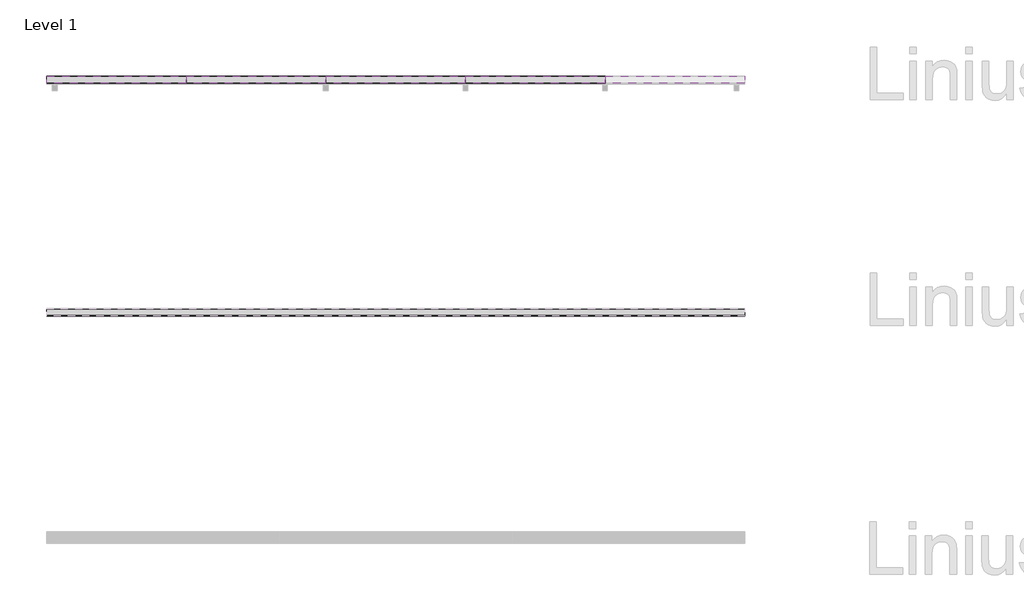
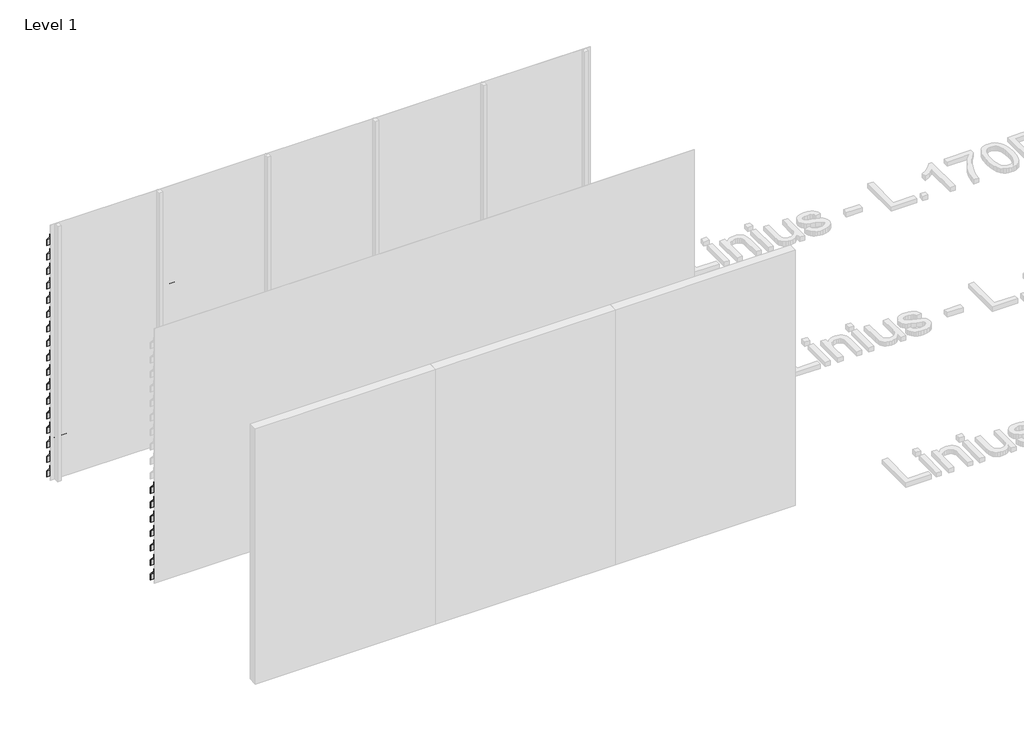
# One storey, part 83 of 121: 84 proxies.
"""IFC4 building model written with IfcOpenShell, lengths in millimetres."""

from ifc_helpers import new_model, si_unit, frame, origin, place, context, project, spatial, polyline, outline, extrude, element, save

model = new_model("IFC4")

# Units and contexts
model_context = context("Model", 3, world=origin())
ifc_project = project(units=[si_unit("LENGTHUNIT", "METRE", prefix="MILLI")], contexts=[model_context])

# Site, building, storey
site = spatial("IfcSite", under=ifc_project)
building = spatial("IfcBuilding", under=site)
storey = spatial("IfcBuildingStorey", under=building, Name="Level 1", Elevation=0.0)

# Proxies
placement = place(None, origin())
element("IfcBuildingElementProxy", 1, Name="Wall Sweeps", at=placement, inside=storey, context=model_context, shape_type="SweptSolid", body=[
    extrude(outline(polyline([(36552.5540136, 2789.0), (36552.5540136, 2720.0), (36550.5540136, 2720.9326153), (36550.5540136, 2788.2698755), (36490.0540136, 2860.0893276), (36490.0540136, 2890.0), (36492.0540136, 2890.0), (36492.0540136, 2860.8194521), (36552.5540136, 2789.0)])), frame((89466.6208097, 0.0, 0.0), z_axis=(1.0, 0.0, 0.0), x_axis=(0.0, 1.0, 0.0)), (0.0, 0.0, 1.0), 1200.0000002),
])
element("IfcBuildingElementProxy", 2, Name="Wall Sweeps", at=placement, inside=storey, context=model_context, shape_type="SweptSolid", body=[
    extrude(outline(polyline([(36552.5540136, 2619.0), (36552.5540136, 2550.0), (36550.5540136, 2550.9326153), (36550.5540136, 2618.2698755), (36490.0540136, 2690.0893276), (36490.0540136, 2720.0), (36492.0540136, 2720.0), (36492.0540136, 2690.8194521), (36552.5540136, 2619.0)])), frame((89466.6208097, 0.0, 0.0), z_axis=(1.0, 0.0, 0.0), x_axis=(0.0, 1.0, 0.0)), (0.0, 0.0, 1.0), 1200.0000002),
])
element("IfcBuildingElementProxy", 3, Name="Wall Sweeps", at=placement, inside=storey, context=model_context, shape_type="SweptSolid", body=[
    extrude(outline(polyline([(36552.5540136, 2449.0), (36552.5540136, 2380.0), (36550.5540136, 2380.9326153), (36550.5540136, 2448.2698755), (36490.0540136, 2520.0893276), (36490.0540136, 2550.0), (36492.0540136, 2550.0), (36492.0540136, 2520.8194521), (36552.5540136, 2449.0)])), frame((89466.6208097, 0.0, 0.0), z_axis=(1.0, 0.0, 0.0), x_axis=(0.0, 1.0, 0.0)), (0.0, 0.0, 1.0), 1200.0000002),
])
element("IfcBuildingElementProxy", 4, Name="Wall Sweeps", at=placement, inside=storey, context=model_context, shape_type="SweptSolid", body=[
    extrude(outline(polyline([(36552.5540136, 2279.0), (36552.5540136, 2210.0), (36550.5540136, 2210.9326153), (36550.5540136, 2278.2698755), (36490.0540136, 2350.0893276), (36490.0540136, 2380.0), (36492.0540136, 2380.0), (36492.0540136, 2350.8194521), (36552.5540136, 2279.0)])), frame((89466.6208097, 0.0, 0.0), z_axis=(1.0, 0.0, 0.0), x_axis=(0.0, 1.0, 0.0)), (0.0, 0.0, 1.0), 1200.0000002),
])
element("IfcBuildingElementProxy", 5, Name="Wall Sweeps", at=placement, inside=storey, context=model_context, shape_type="SweptSolid", body=[
    extrude(outline(polyline([(36552.5540136, 2109.0), (36552.5540136, 2040.0), (36550.5540136, 2040.9326153), (36550.5540136, 2108.2698755), (36490.0540136, 2180.0893276), (36490.0540136, 2210.0), (36492.0540136, 2210.0), (36492.0540136, 2180.8194521), (36552.5540136, 2109.0)])), frame((89466.6208097, 0.0, 0.0), z_axis=(1.0, 0.0, 0.0), x_axis=(0.0, 1.0, 0.0)), (0.0, 0.0, 1.0), 1200.0000002),
])
element("IfcBuildingElementProxy", 6, Name="Wall Sweeps", at=placement, inside=storey, context=model_context, shape_type="SweptSolid", body=[
    extrude(outline(polyline([(36552.5540136, 1939.0), (36552.5540136, 1870.0), (36550.5540136, 1870.9326153), (36550.5540136, 1938.2698755), (36490.0540136, 2010.0893276), (36490.0540136, 2040.0), (36492.0540136, 2040.0), (36492.0540136, 2010.8194521), (36552.5540136, 1939.0)])), frame((89466.6208097, 0.0, 0.0), z_axis=(1.0, 0.0, 0.0), x_axis=(0.0, 1.0, 0.0)), (0.0, 0.0, 1.0), 1200.0000002),
])
element("IfcBuildingElementProxy", 7, Name="Wall Sweeps", at=placement, inside=storey, context=model_context, shape_type="SweptSolid", body=[
    extrude(outline(polyline([(36552.5540136, 1769.0), (36552.5540136, 1700.0), (36550.5540136, 1700.9326153), (36550.5540136, 1768.2698755), (36490.0540136, 1840.0893276), (36490.0540136, 1870.0), (36492.0540136, 1870.0), (36492.0540136, 1840.8194521), (36552.5540136, 1769.0)])), frame((89466.6208097, 0.0, 0.0), z_axis=(1.0, 0.0, 0.0), x_axis=(0.0, 1.0, 0.0)), (0.0, 0.0, 1.0), 1200.0000002),
])
element("IfcBuildingElementProxy", 8, Name="Wall Sweeps", at=placement, inside=storey, context=model_context, shape_type="SweptSolid", body=[
    extrude(outline(polyline([(36552.5540136, 1599.0), (36552.5540136, 1530.0), (36550.5540136, 1530.9326153), (36550.5540136, 1598.2698755), (36490.0540136, 1670.0893276), (36490.0540136, 1700.0), (36492.0540136, 1700.0), (36492.0540136, 1670.8194521), (36552.5540136, 1599.0)])), frame((89466.6208097, 0.0, 0.0), z_axis=(1.0, 0.0, 0.0), x_axis=(0.0, 1.0, 0.0)), (0.0, 0.0, 1.0), 1200.0000002),
])
element("IfcBuildingElementProxy", 9, Name="Wall Sweeps", at=placement, inside=storey, context=model_context, shape_type="SweptSolid", body=[
    extrude(outline(polyline([(36552.5540136, 1429.0), (36552.5540136, 1360.0), (36550.5540136, 1360.9326153), (36550.5540136, 1428.2698755), (36490.0540136, 1500.0893276), (36490.0540136, 1530.0), (36492.0540136, 1530.0), (36492.0540136, 1500.8194521), (36552.5540136, 1429.0)])), frame((89466.6208097, 0.0, 0.0), z_axis=(1.0, 0.0, 0.0), x_axis=(0.0, 1.0, 0.0)), (0.0, 0.0, 1.0), 1200.0000002),
])
element("IfcBuildingElementProxy", 10, Name="Wall Sweeps", at=placement, inside=storey, context=model_context, shape_type="SweptSolid", body=[
    extrude(outline(polyline([(36552.5540136, 1259.0), (36552.5540136, 1190.0), (36550.5540136, 1190.9326153), (36550.5540136, 1258.2698755), (36490.0540136, 1330.0893276), (36490.0540136, 1360.0), (36492.0540136, 1360.0), (36492.0540136, 1330.8194521), (36552.5540136, 1259.0)])), frame((89466.6208097, 0.0, 0.0), z_axis=(1.0, 0.0, 0.0), x_axis=(0.0, 1.0, 0.0)), (0.0, 0.0, 1.0), 1200.0000002),
])
element("IfcBuildingElementProxy", 11, Name="Wall Sweeps", at=placement, inside=storey, context=model_context, shape_type="SweptSolid", body=[
    extrude(outline(polyline([(36552.5540136, 1089.0), (36552.5540136, 1020.0), (36550.5540136, 1020.9326153), (36550.5540136, 1088.2698755), (36490.0540136, 1160.0893276), (36490.0540136, 1190.0), (36492.0540136, 1190.0), (36492.0540136, 1160.8194521), (36552.5540136, 1089.0)])), frame((89466.6208097, 0.0, 0.0), z_axis=(1.0, 0.0, 0.0), x_axis=(0.0, 1.0, 0.0)), (0.0, 0.0, 1.0), 1200.0000002),
])
element("IfcBuildingElementProxy", 12, Name="Wall Sweeps", at=placement, inside=storey, context=model_context, shape_type="SweptSolid", body=[
    extrude(outline(polyline([(36552.5540136, 919.0), (36552.5540136, 850.0), (36550.5540136, 850.9326153), (36550.5540136, 918.2698755), (36490.0540136, 990.0893276), (36490.0540136, 1020.0), (36492.0540136, 1020.0), (36492.0540136, 990.8194521), (36552.5540136, 919.0)])), frame((89466.6208097, 0.0, 0.0), z_axis=(1.0, 0.0, 0.0), x_axis=(0.0, 1.0, 0.0)), (0.0, 0.0, 1.0), 1200.0000002),
])
element("IfcBuildingElementProxy", 13, Name="Wall Sweeps", at=placement, inside=storey, context=model_context, shape_type="SweptSolid", body=[
    extrude(outline(polyline([(36552.5540136, 749.0), (36552.5540136, 680.0), (36550.5540136, 680.9326153), (36550.5540136, 748.2698755), (36490.0540136, 820.0893276), (36490.0540136, 850.0), (36492.0540136, 850.0), (36492.0540136, 820.8194521), (36552.5540136, 749.0)])), frame((89466.6208097, 0.0, 0.0), z_axis=(1.0, 0.0, 0.0), x_axis=(0.0, 1.0, 0.0)), (0.0, 0.0, 1.0), 1200.0000002),
])
element("IfcBuildingElementProxy", 14, Name="Wall Sweeps", at=placement, inside=storey, context=model_context, shape_type="SweptSolid", body=[
    extrude(outline(polyline([(36552.5540136, 579.0), (36552.5540136, 510.0), (36550.5540136, 510.9326153), (36550.5540136, 578.2698755), (36490.0540136, 650.0893276), (36490.0540136, 680.0), (36492.0540136, 680.0), (36492.0540136, 650.8194521), (36552.5540136, 579.0)])), frame((89466.6208097, 0.0, 0.0), z_axis=(1.0, 0.0, 0.0), x_axis=(0.0, 1.0, 0.0)), (0.0, 0.0, 1.0), 1200.0000002),
])
element("IfcBuildingElementProxy", 15, Name="Wall Sweeps", at=placement, inside=storey, context=model_context, shape_type="SweptSolid", body=[
    extrude(outline(polyline([(36552.5540136, 409.0), (36552.5540136, 340.0), (36550.5540136, 340.9326153), (36550.5540136, 408.2698755), (36490.0540136, 480.0893276), (36490.0540136, 510.0), (36492.0540136, 510.0), (36492.0540136, 480.8194521), (36552.5540136, 409.0)])), frame((89466.6208097, 0.0, 0.0), z_axis=(1.0, 0.0, 0.0), x_axis=(0.0, 1.0, 0.0)), (0.0, 0.0, 1.0), 1200.0000002),
])
element("IfcBuildingElementProxy", 16, Name="Wall Sweeps", at=placement, inside=storey, context=model_context, shape_type="SweptSolid", body=[
    extrude(outline(polyline([(36552.5540136, 239.0), (36552.5540136, 170.0), (36550.5540136, 170.9326153), (36550.5540136, 238.2698755), (36490.0540136, 310.0893276), (36490.0540136, 340.0), (36492.0540136, 340.0), (36492.0540136, 310.8194521), (36552.5540136, 239.0)])), frame((89466.6208097, 0.0, 0.0), z_axis=(1.0, 0.0, 0.0), x_axis=(0.0, 1.0, 0.0)), (0.0, 0.0, 1.0), 1200.0000002),
])
element("IfcBuildingElementProxy", 17, Name="Wall Sweeps", at=placement, inside=storey, context=model_context, shape_type="SweptSolid", body=[
    extrude(outline(polyline([(36552.5540136, 69.0), (36552.5540136, 0.0), (36550.5540136, 0.9326153), (36550.5540136, 68.2698755), (36490.0540136, 140.0893276), (36490.0540136, 170.0), (36492.0540136, 170.0), (36492.0540136, 140.8194521), (36552.5540136, 69.0)])), frame((89466.6208097, 0.0, 0.0), z_axis=(1.0, 0.0, 0.0), x_axis=(0.0, 1.0, 0.0)), (0.0, 0.0, 1.0), 1200.0000002),
])
element("IfcBuildingElementProxy", 18, Name="Wall Sweeps", at=placement, inside=storey, context=model_context, shape_type="SweptSolid", body=[
    extrude(outline(polyline([(36552.5540136, 2789.0), (36552.5540136, 2720.0), (36550.5540136, 2720.9326153), (36550.5540136, 2788.2698755), (36490.0540136, 2860.0893276), (36490.0540136, 2890.0), (36492.0540136, 2890.0), (36492.0540136, 2860.8194521), (36552.5540136, 2789.0)])), frame((90666.6208099, 0.0, 0.0), z_axis=(1.0, 0.0, 0.0), x_axis=(0.0, 1.0, 0.0)), (0.0, 0.0, 1.0), 1199.9999999),
])
element("IfcBuildingElementProxy", 19, Name="Wall Sweeps", at=placement, inside=storey, context=model_context, shape_type="SweptSolid", body=[
    extrude(outline(polyline([(36552.5540136, 2619.0), (36552.5540136, 2550.0), (36550.5540136, 2550.9326153), (36550.5540136, 2618.2698755), (36490.0540136, 2690.0893276), (36490.0540136, 2720.0), (36492.0540136, 2720.0), (36492.0540136, 2690.8194521), (36552.5540136, 2619.0)])), frame((90666.6208099, 0.0, 0.0), z_axis=(1.0, 0.0, 0.0), x_axis=(0.0, 1.0, 0.0)), (0.0, 0.0, 1.0), 1199.9999999),
])
element("IfcBuildingElementProxy", 20, Name="Wall Sweeps", at=placement, inside=storey, context=model_context, shape_type="SweptSolid", body=[
    extrude(outline(polyline([(36552.5540136, 2449.0), (36552.5540136, 2380.0), (36550.5540136, 2380.9326153), (36550.5540136, 2448.2698755), (36490.0540136, 2520.0893276), (36490.0540136, 2550.0), (36492.0540136, 2550.0), (36492.0540136, 2520.8194521), (36552.5540136, 2449.0)])), frame((90666.6208099, 0.0, 0.0), z_axis=(1.0, 0.0, 0.0), x_axis=(0.0, 1.0, 0.0)), (0.0, 0.0, 1.0), 1199.9999999),
])
element("IfcBuildingElementProxy", 21, Name="Wall Sweeps", at=placement, inside=storey, context=model_context, shape_type="SweptSolid", body=[
    extrude(outline(polyline([(36552.5540136, 2279.0), (36552.5540136, 2210.0), (36550.5540136, 2210.9326153), (36550.5540136, 2278.2698755), (36490.0540136, 2350.0893276), (36490.0540136, 2380.0), (36492.0540136, 2380.0), (36492.0540136, 2350.8194521), (36552.5540136, 2279.0)])), frame((90666.6208099, 0.0, 0.0), z_axis=(1.0, 0.0, 0.0), x_axis=(0.0, 1.0, 0.0)), (0.0, 0.0, 1.0), 1199.9999999),
])
element("IfcBuildingElementProxy", 22, Name="Wall Sweeps", at=placement, inside=storey, context=model_context, shape_type="SweptSolid", body=[
    extrude(outline(polyline([(36552.5540136, 2109.0), (36552.5540136, 2040.0), (36550.5540136, 2040.9326153), (36550.5540136, 2108.2698755), (36490.0540136, 2180.0893276), (36490.0540136, 2210.0), (36492.0540136, 2210.0), (36492.0540136, 2180.8194521), (36552.5540136, 2109.0)])), frame((90666.6208099, 0.0, 0.0), z_axis=(1.0, 0.0, 0.0), x_axis=(0.0, 1.0, 0.0)), (0.0, 0.0, 1.0), 1199.9999999),
])
element("IfcBuildingElementProxy", 23, Name="Wall Sweeps", at=placement, inside=storey, context=model_context, shape_type="SweptSolid", body=[
    extrude(outline(polyline([(36552.5540136, 1939.0), (36552.5540136, 1870.0), (36550.5540136, 1870.9326153), (36550.5540136, 1938.2698755), (36490.0540136, 2010.0893276), (36490.0540136, 2040.0), (36492.0540136, 2040.0), (36492.0540136, 2010.8194521), (36552.5540136, 1939.0)])), frame((90666.6208099, 0.0, 0.0), z_axis=(1.0, 0.0, 0.0), x_axis=(0.0, 1.0, 0.0)), (0.0, 0.0, 1.0), 1199.9999999),
])
element("IfcBuildingElementProxy", 24, Name="Wall Sweeps", at=placement, inside=storey, context=model_context, shape_type="SweptSolid", body=[
    extrude(outline(polyline([(36552.5540136, 1769.0), (36552.5540136, 1700.0), (36550.5540136, 1700.9326153), (36550.5540136, 1768.2698755), (36490.0540136, 1840.0893276), (36490.0540136, 1870.0), (36492.0540136, 1870.0), (36492.0540136, 1840.8194521), (36552.5540136, 1769.0)])), frame((90666.6208099, 0.0, 0.0), z_axis=(1.0, 0.0, 0.0), x_axis=(0.0, 1.0, 0.0)), (0.0, 0.0, 1.0), 1199.9999999),
])
element("IfcBuildingElementProxy", 25, Name="Wall Sweeps", at=placement, inside=storey, context=model_context, shape_type="SweptSolid", body=[
    extrude(outline(polyline([(36552.5540136, 1599.0), (36552.5540136, 1530.0), (36550.5540136, 1530.9326153), (36550.5540136, 1598.2698755), (36490.0540136, 1670.0893276), (36490.0540136, 1700.0), (36492.0540136, 1700.0), (36492.0540136, 1670.8194521), (36552.5540136, 1599.0)])), frame((90666.6208099, 0.0, 0.0), z_axis=(1.0, 0.0, 0.0), x_axis=(0.0, 1.0, 0.0)), (0.0, 0.0, 1.0), 1199.9999999),
])
element("IfcBuildingElementProxy", 26, Name="Wall Sweeps", at=placement, inside=storey, context=model_context, shape_type="SweptSolid", body=[
    extrude(outline(polyline([(36552.5540136, 1429.0), (36552.5540136, 1360.0), (36550.5540136, 1360.9326153), (36550.5540136, 1428.2698755), (36490.0540136, 1500.0893276), (36490.0540136, 1530.0), (36492.0540136, 1530.0), (36492.0540136, 1500.8194521), (36552.5540136, 1429.0)])), frame((90666.6208099, 0.0, 0.0), z_axis=(1.0, 0.0, 0.0), x_axis=(0.0, 1.0, 0.0)), (0.0, 0.0, 1.0), 1199.9999999),
])
element("IfcBuildingElementProxy", 27, Name="Wall Sweeps", at=placement, inside=storey, context=model_context, shape_type="SweptSolid", body=[
    extrude(outline(polyline([(36552.5540136, 1259.0), (36552.5540136, 1190.0), (36550.5540136, 1190.9326153), (36550.5540136, 1258.2698755), (36490.0540136, 1330.0893276), (36490.0540136, 1360.0), (36492.0540136, 1360.0), (36492.0540136, 1330.8194521), (36552.5540136, 1259.0)])), frame((90666.6208099, 0.0, 0.0), z_axis=(1.0, 0.0, 0.0), x_axis=(0.0, 1.0, 0.0)), (0.0, 0.0, 1.0), 1199.9999999),
])
element("IfcBuildingElementProxy", 28, Name="Wall Sweeps", at=placement, inside=storey, context=model_context, shape_type="SweptSolid", body=[
    extrude(outline(polyline([(36552.5540136, 1089.0), (36552.5540136, 1020.0), (36550.5540136, 1020.9326153), (36550.5540136, 1088.2698755), (36490.0540136, 1160.0893276), (36490.0540136, 1190.0), (36492.0540136, 1190.0), (36492.0540136, 1160.8194521), (36552.5540136, 1089.0)])), frame((90666.6208099, 0.0, 0.0), z_axis=(1.0, 0.0, 0.0), x_axis=(0.0, 1.0, 0.0)), (0.0, 0.0, 1.0), 1199.9999999),
])
element("IfcBuildingElementProxy", 29, Name="Wall Sweeps", at=placement, inside=storey, context=model_context, shape_type="SweptSolid", body=[
    extrude(outline(polyline([(36552.5540136, 919.0), (36552.5540136, 850.0), (36550.5540136, 850.9326153), (36550.5540136, 918.2698755), (36490.0540136, 990.0893276), (36490.0540136, 1020.0), (36492.0540136, 1020.0), (36492.0540136, 990.8194521), (36552.5540136, 919.0)])), frame((90666.6208099, 0.0, 0.0), z_axis=(1.0, 0.0, 0.0), x_axis=(0.0, 1.0, 0.0)), (0.0, 0.0, 1.0), 1199.9999999),
])
element("IfcBuildingElementProxy", 30, Name="Wall Sweeps", at=placement, inside=storey, context=model_context, shape_type="SweptSolid", body=[
    extrude(outline(polyline([(36552.5540136, 749.0), (36552.5540136, 680.0), (36550.5540136, 680.9326153), (36550.5540136, 748.2698755), (36490.0540136, 820.0893276), (36490.0540136, 850.0), (36492.0540136, 850.0), (36492.0540136, 820.8194521), (36552.5540136, 749.0)])), frame((90666.6208099, 0.0, 0.0), z_axis=(1.0, 0.0, 0.0), x_axis=(0.0, 1.0, 0.0)), (0.0, 0.0, 1.0), 1199.9999999),
])
element("IfcBuildingElementProxy", 31, Name="Wall Sweeps", at=placement, inside=storey, context=model_context, shape_type="SweptSolid", body=[
    extrude(outline(polyline([(36552.5540136, 579.0), (36552.5540136, 510.0), (36550.5540136, 510.9326153), (36550.5540136, 578.2698755), (36490.0540136, 650.0893276), (36490.0540136, 680.0), (36492.0540136, 680.0), (36492.0540136, 650.8194521), (36552.5540136, 579.0)])), frame((90666.6208099, 0.0, 0.0), z_axis=(1.0, 0.0, 0.0), x_axis=(0.0, 1.0, 0.0)), (0.0, 0.0, 1.0), 1199.9999999),
])
element("IfcBuildingElementProxy", 32, Name="Wall Sweeps", at=placement, inside=storey, context=model_context, shape_type="SweptSolid", body=[
    extrude(outline(polyline([(36552.5540136, 409.0), (36552.5540136, 340.0), (36550.5540136, 340.9326153), (36550.5540136, 408.2698755), (36490.0540136, 480.0893276), (36490.0540136, 510.0), (36492.0540136, 510.0), (36492.0540136, 480.8194521), (36552.5540136, 409.0)])), frame((90666.6208099, 0.0, 0.0), z_axis=(1.0, 0.0, 0.0), x_axis=(0.0, 1.0, 0.0)), (0.0, 0.0, 1.0), 1199.9999999),
])
element("IfcBuildingElementProxy", 33, Name="Wall Sweeps", at=placement, inside=storey, context=model_context, shape_type="SweptSolid", body=[
    extrude(outline(polyline([(36552.5540136, 239.0), (36552.5540136, 170.0), (36550.5540136, 170.9326153), (36550.5540136, 238.2698755), (36490.0540136, 310.0893276), (36490.0540136, 340.0), (36492.0540136, 340.0), (36492.0540136, 310.8194521), (36552.5540136, 239.0)])), frame((90666.6208099, 0.0, 0.0), z_axis=(1.0, 0.0, 0.0), x_axis=(0.0, 1.0, 0.0)), (0.0, 0.0, 1.0), 1199.9999999),
])
element("IfcBuildingElementProxy", 34, Name="Wall Sweeps", at=placement, inside=storey, context=model_context, shape_type="SweptSolid", body=[
    extrude(outline(polyline([(36552.5540136, 69.0), (36552.5540136, 0.0), (36550.5540136, 0.9326153), (36550.5540136, 68.2698755), (36490.0540136, 140.0893276), (36490.0540136, 170.0), (36492.0540136, 170.0), (36492.0540136, 140.8194521), (36552.5540136, 69.0)])), frame((90666.6208099, 0.0, 0.0), z_axis=(1.0, 0.0, 0.0), x_axis=(0.0, 1.0, 0.0)), (0.0, 0.0, 1.0), 1199.9999999),
])
element("IfcBuildingElementProxy", 35, Name="Wall Sweeps", at=placement, inside=storey, context=model_context, shape_type="SweptSolid", body=[
    extrude(outline(polyline([(36552.5540136, 2789.0), (36552.5540136, 2720.0), (36550.5540136, 2720.9326153), (36550.5540136, 2788.2698755), (36490.0540136, 2860.0893276), (36490.0540136, 2890.0), (36492.0540136, 2890.0), (36492.0540136, 2860.8194521), (36552.5540136, 2789.0)])), frame((94266.6208095, 0.0, 0.0), z_axis=(1.0, 0.0, 0.0), x_axis=(0.0, 1.0, 0.0)), (0.0, 0.0, 1.0), 1200.0000002),
])
element("IfcBuildingElementProxy", 36, Name="Wall Sweeps", at=placement, inside=storey, context=model_context, shape_type="SweptSolid", body=[
    extrude(outline(polyline([(36552.5540136, 2619.0), (36552.5540136, 2550.0), (36550.5540136, 2550.9326153), (36550.5540136, 2618.2698755), (36490.0540136, 2690.0893276), (36490.0540136, 2720.0), (36492.0540136, 2720.0), (36492.0540136, 2690.8194521), (36552.5540136, 2619.0)])), frame((94266.6208095, 0.0, 0.0), z_axis=(1.0, 0.0, 0.0), x_axis=(0.0, 1.0, 0.0)), (0.0, 0.0, 1.0), 1200.0000002),
])
element("IfcBuildingElementProxy", 37, Name="Wall Sweeps", at=placement, inside=storey, context=model_context, shape_type="SweptSolid", body=[
    extrude(outline(polyline([(36552.5540136, 2449.0), (36552.5540136, 2380.0), (36550.5540136, 2380.9326153), (36550.5540136, 2448.2698755), (36490.0540136, 2520.0893276), (36490.0540136, 2550.0), (36492.0540136, 2550.0), (36492.0540136, 2520.8194521), (36552.5540136, 2449.0)])), frame((94266.6208095, 0.0, 0.0), z_axis=(1.0, 0.0, 0.0), x_axis=(0.0, 1.0, 0.0)), (0.0, 0.0, 1.0), 1200.0000002),
])
element("IfcBuildingElementProxy", 38, Name="Wall Sweeps", at=placement, inside=storey, context=model_context, shape_type="SweptSolid", body=[
    extrude(outline(polyline([(36552.5540136, 2279.0), (36552.5540136, 2210.0), (36550.5540136, 2210.9326153), (36550.5540136, 2278.2698755), (36490.0540136, 2350.0893276), (36490.0540136, 2380.0), (36492.0540136, 2380.0), (36492.0540136, 2350.8194521), (36552.5540136, 2279.0)])), frame((94266.6208095, 0.0, 0.0), z_axis=(1.0, 0.0, 0.0), x_axis=(0.0, 1.0, 0.0)), (0.0, 0.0, 1.0), 1200.0000002),
])
element("IfcBuildingElementProxy", 39, Name="Wall Sweeps", at=placement, inside=storey, context=model_context, shape_type="SweptSolid", body=[
    extrude(outline(polyline([(36552.5540136, 2109.0), (36552.5540136, 2040.0), (36550.5540136, 2040.9326153), (36550.5540136, 2108.2698755), (36490.0540136, 2180.0893276), (36490.0540136, 2210.0), (36492.0540136, 2210.0), (36492.0540136, 2180.8194521), (36552.5540136, 2109.0)])), frame((94266.6208095, 0.0, 0.0), z_axis=(1.0, 0.0, 0.0), x_axis=(0.0, 1.0, 0.0)), (0.0, 0.0, 1.0), 1200.0000002),
])
element("IfcBuildingElementProxy", 40, Name="Wall Sweeps", at=placement, inside=storey, context=model_context, shape_type="SweptSolid", body=[
    extrude(outline(polyline([(36552.5540136, 1939.0), (36552.5540136, 1870.0), (36550.5540136, 1870.9326153), (36550.5540136, 1938.2698755), (36490.0540136, 2010.0893276), (36490.0540136, 2040.0), (36492.0540136, 2040.0), (36492.0540136, 2010.8194521), (36552.5540136, 1939.0)])), frame((94266.6208095, 0.0, 0.0), z_axis=(1.0, 0.0, 0.0), x_axis=(0.0, 1.0, 0.0)), (0.0, 0.0, 1.0), 1200.0000002),
])
element("IfcBuildingElementProxy", 41, Name="Wall Sweeps", at=placement, inside=storey, context=model_context, shape_type="SweptSolid", body=[
    extrude(outline(polyline([(36552.5540136, 1769.0), (36552.5540136, 1700.0), (36550.5540136, 1700.9326153), (36550.5540136, 1768.2698755), (36490.0540136, 1840.0893276), (36490.0540136, 1870.0), (36492.0540136, 1870.0), (36492.0540136, 1840.8194521), (36552.5540136, 1769.0)])), frame((94266.6208095, 0.0, 0.0), z_axis=(1.0, 0.0, 0.0), x_axis=(0.0, 1.0, 0.0)), (0.0, 0.0, 1.0), 1200.0000002),
])
element("IfcBuildingElementProxy", 42, Name="Wall Sweeps", at=placement, inside=storey, context=model_context, shape_type="SweptSolid", body=[
    extrude(outline(polyline([(36552.5540136, 1599.0), (36552.5540136, 1530.0), (36550.5540136, 1530.9326153), (36550.5540136, 1598.2698755), (36490.0540136, 1670.0893276), (36490.0540136, 1700.0), (36492.0540136, 1700.0), (36492.0540136, 1670.8194521), (36552.5540136, 1599.0)])), frame((94266.6208095, 0.0, 0.0), z_axis=(1.0, 0.0, 0.0), x_axis=(0.0, 1.0, 0.0)), (0.0, 0.0, 1.0), 1200.0000002),
])
element("IfcBuildingElementProxy", 43, Name="Wall Sweeps", at=placement, inside=storey, context=model_context, shape_type="SweptSolid", body=[
    extrude(outline(polyline([(36552.5540136, 1429.0), (36552.5540136, 1360.0), (36550.5540136, 1360.9326153), (36550.5540136, 1428.2698755), (36490.0540136, 1500.0893276), (36490.0540136, 1530.0), (36492.0540136, 1530.0), (36492.0540136, 1500.8194521), (36552.5540136, 1429.0)])), frame((94266.6208095, 0.0, 0.0), z_axis=(1.0, 0.0, 0.0), x_axis=(0.0, 1.0, 0.0)), (0.0, 0.0, 1.0), 1200.0000002),
])
element("IfcBuildingElementProxy", 44, Name="Wall Sweeps", at=placement, inside=storey, context=model_context, shape_type="SweptSolid", body=[
    extrude(outline(polyline([(34552.5540136, 1089.0), (34552.5540136, 1020.0), (34550.5540136, 1020.9326153), (34550.5540136, 1088.2698755), (34490.0540136, 1160.0893276), (34490.0540136, 1190.0), (34492.0540136, 1190.0), (34492.0540136, 1160.8194521), (34552.5540136, 1089.0)])), frame((89466.6208097, 0.0, 0.0), z_axis=(1.0, 0.0, 0.0), x_axis=(0.0, 1.0, 0.0)), (0.0, 0.0, 1.0), 6000.0),
])
element("IfcBuildingElementProxy", 45, Name="Wall Sweeps", at=placement, inside=storey, context=model_context, shape_type="SweptSolid", body=[
    extrude(outline(polyline([(34552.5540136, 919.0), (34552.5540136, 850.0), (34550.5540136, 850.9326153), (34550.5540136, 918.2698755), (34490.0540136, 990.0893276), (34490.0540136, 1020.0), (34492.0540136, 1020.0), (34492.0540136, 990.8194521), (34552.5540136, 919.0)])), frame((89466.6208097, 0.0, 0.0), z_axis=(1.0, 0.0, 0.0), x_axis=(0.0, 1.0, 0.0)), (0.0, 0.0, 1.0), 6000.0),
])
element("IfcBuildingElementProxy", 46, Name="Wall Sweeps", at=placement, inside=storey, context=model_context, shape_type="SweptSolid", body=[
    extrude(outline(polyline([(34552.5540136, 749.0), (34552.5540136, 680.0), (34550.5540136, 680.9326153), (34550.5540136, 748.2698755), (34490.0540136, 820.0893276), (34490.0540136, 850.0), (34492.0540136, 850.0), (34492.0540136, 820.8194521), (34552.5540136, 749.0)])), frame((89466.6208097, 0.0, 0.0), z_axis=(1.0, 0.0, 0.0), x_axis=(0.0, 1.0, 0.0)), (0.0, 0.0, 1.0), 6000.0),
])
element("IfcBuildingElementProxy", 47, Name="Wall Sweeps", at=placement, inside=storey, context=model_context, shape_type="SweptSolid", body=[
    extrude(outline(polyline([(34552.5540136, 579.0), (34552.5540136, 510.0), (34550.5540136, 510.9326153), (34550.5540136, 578.2698755), (34490.0540136, 650.0893276), (34490.0540136, 680.0), (34492.0540136, 680.0), (34492.0540136, 650.8194521), (34552.5540136, 579.0)])), frame((89466.6208097, 0.0, 0.0), z_axis=(1.0, 0.0, 0.0), x_axis=(0.0, 1.0, 0.0)), (0.0, 0.0, 1.0), 6000.0),
])
element("IfcBuildingElementProxy", 48, Name="Wall Sweeps", at=placement, inside=storey, context=model_context, shape_type="SweptSolid", body=[
    extrude(outline(polyline([(34552.5540136, 409.0), (34552.5540136, 340.0), (34550.5540136, 340.9326153), (34550.5540136, 408.2698755), (34490.0540136, 480.0893276), (34490.0540136, 510.0), (34492.0540136, 510.0), (34492.0540136, 480.8194521), (34552.5540136, 409.0)])), frame((89466.6208097, 0.0, 0.0), z_axis=(1.0, 0.0, 0.0), x_axis=(0.0, 1.0, 0.0)), (0.0, 0.0, 1.0), 6000.0),
])
element("IfcBuildingElementProxy", 49, Name="Wall Sweeps", at=placement, inside=storey, context=model_context, shape_type="SweptSolid", body=[
    extrude(outline(polyline([(34552.5540136, 239.0), (34552.5540136, 170.0), (34550.5540136, 170.9326153), (34550.5540136, 238.2698755), (34490.0540136, 310.0893276), (34490.0540136, 340.0), (34492.0540136, 340.0), (34492.0540136, 310.8194521), (34552.5540136, 239.0)])), frame((89466.6208097, 0.0, 0.0), z_axis=(1.0, 0.0, 0.0), x_axis=(0.0, 1.0, 0.0)), (0.0, 0.0, 1.0), 6000.0),
])
element("IfcBuildingElementProxy", 50, Name="Wall Sweeps", at=placement, inside=storey, context=model_context, shape_type="SweptSolid", body=[
    extrude(outline(polyline([(34552.5540136, 69.0), (34552.5540136, 0.0), (34550.5540136, 0.9326153), (34550.5540136, 68.2698755), (34490.0540136, 140.0893276), (34490.0540136, 170.0), (34492.0540136, 170.0), (34492.0540136, 140.8194521), (34552.5540136, 69.0)])), frame((89466.6208097, 0.0, 0.0), z_axis=(1.0, 0.0, 0.0), x_axis=(0.0, 1.0, 0.0)), (0.0, 0.0, 1.0), 6000.0),
])
element("IfcBuildingElementProxy", 51, Name="Wall Sweeps", at=placement, inside=storey, context=model_context, shape_type="SweptSolid", body=[
    extrude(outline(polyline([(36552.5540136, 2789.0), (36552.5540136, 2720.0), (36550.5540136, 2720.9326153), (36550.5540136, 2788.2698755), (36490.0540136, 2860.0893276), (36490.0540136, 2890.0), (36492.0540136, 2890.0), (36492.0540136, 2860.8194521), (36552.5540136, 2789.0)])), frame((91866.6208097, 0.0, 0.0), z_axis=(1.0, 0.0, 0.0), x_axis=(0.0, 1.0, 0.0)), (0.0, 0.0, 1.0), 1199.9999999),
])
element("IfcBuildingElementProxy", 52, Name="Wall Sweeps", at=placement, inside=storey, context=model_context, shape_type="SweptSolid", body=[
    extrude(outline(polyline([(36552.5540136, 2619.0), (36552.5540136, 2550.0), (36550.5540136, 2550.9326153), (36550.5540136, 2618.2698755), (36490.0540136, 2690.0893276), (36490.0540136, 2720.0), (36492.0540136, 2720.0), (36492.0540136, 2690.8194521), (36552.5540136, 2619.0)])), frame((91866.6208097, 0.0, 0.0), z_axis=(1.0, 0.0, 0.0), x_axis=(0.0, 1.0, 0.0)), (0.0, 0.0, 1.0), 1199.9999999),
])
element("IfcBuildingElementProxy", 53, Name="Wall Sweeps", at=placement, inside=storey, context=model_context, shape_type="SweptSolid", body=[
    extrude(outline(polyline([(36552.5540136, 2449.0), (36552.5540136, 2380.0), (36550.5540136, 2380.9326153), (36550.5540136, 2448.2698755), (36490.0540136, 2520.0893276), (36490.0540136, 2550.0), (36492.0540136, 2550.0), (36492.0540136, 2520.8194521), (36552.5540136, 2449.0)])), frame((91866.6208097, 0.0, 0.0), z_axis=(1.0, 0.0, 0.0), x_axis=(0.0, 1.0, 0.0)), (0.0, 0.0, 1.0), 1199.9999999),
])
element("IfcBuildingElementProxy", 54, Name="Wall Sweeps", at=placement, inside=storey, context=model_context, shape_type="SweptSolid", body=[
    extrude(outline(polyline([(36552.5540136, 2279.0), (36552.5540136, 2210.0), (36550.5540136, 2210.9326153), (36550.5540136, 2278.2698755), (36490.0540136, 2350.0893276), (36490.0540136, 2380.0), (36492.0540136, 2380.0), (36492.0540136, 2350.8194521), (36552.5540136, 2279.0)])), frame((91866.6208097, 0.0, 0.0), z_axis=(1.0, 0.0, 0.0), x_axis=(0.0, 1.0, 0.0)), (0.0, 0.0, 1.0), 1199.9999999),
])
element("IfcBuildingElementProxy", 55, Name="Wall Sweeps", at=placement, inside=storey, context=model_context, shape_type="SweptSolid", body=[
    extrude(outline(polyline([(36552.5540136, 2109.0), (36552.5540136, 2040.0), (36550.5540136, 2040.9326153), (36550.5540136, 2108.2698755), (36490.0540136, 2180.0893276), (36490.0540136, 2210.0), (36492.0540136, 2210.0), (36492.0540136, 2180.8194521), (36552.5540136, 2109.0)])), frame((91866.6208097, 0.0, 0.0), z_axis=(1.0, 0.0, 0.0), x_axis=(0.0, 1.0, 0.0)), (0.0, 0.0, 1.0), 1199.9999999),
])
element("IfcBuildingElementProxy", 56, Name="Wall Sweeps", at=placement, inside=storey, context=model_context, shape_type="SweptSolid", body=[
    extrude(outline(polyline([(36552.5540136, 1939.0), (36552.5540136, 1870.0), (36550.5540136, 1870.9326153), (36550.5540136, 1938.2698755), (36490.0540136, 2010.0893276), (36490.0540136, 2040.0), (36492.0540136, 2040.0), (36492.0540136, 2010.8194521), (36552.5540136, 1939.0)])), frame((91866.6208097, 0.0, 0.0), z_axis=(1.0, 0.0, 0.0), x_axis=(0.0, 1.0, 0.0)), (0.0, 0.0, 1.0), 1199.9999999),
])
element("IfcBuildingElementProxy", 57, Name="Wall Sweeps", at=placement, inside=storey, context=model_context, shape_type="SweptSolid", body=[
    extrude(outline(polyline([(36552.5540136, 1769.0), (36552.5540136, 1700.0), (36550.5540136, 1700.9326153), (36550.5540136, 1768.2698755), (36490.0540136, 1840.0893276), (36490.0540136, 1870.0), (36492.0540136, 1870.0), (36492.0540136, 1840.8194521), (36552.5540136, 1769.0)])), frame((91866.6208097, 0.0, 0.0), z_axis=(1.0, 0.0, 0.0), x_axis=(0.0, 1.0, 0.0)), (0.0, 0.0, 1.0), 1199.9999999),
])
element("IfcBuildingElementProxy", 58, Name="Wall Sweeps", at=placement, inside=storey, context=model_context, shape_type="SweptSolid", body=[
    extrude(outline(polyline([(36552.5540136, 1599.0), (36552.5540136, 1530.0), (36550.5540136, 1530.9326153), (36550.5540136, 1598.2698755), (36490.0540136, 1670.0893276), (36490.0540136, 1700.0), (36492.0540136, 1700.0), (36492.0540136, 1670.8194521), (36552.5540136, 1599.0)])), frame((91866.6208097, 0.0, 0.0), z_axis=(1.0, 0.0, 0.0), x_axis=(0.0, 1.0, 0.0)), (0.0, 0.0, 1.0), 1199.9999999),
])
element("IfcBuildingElementProxy", 59, Name="Wall Sweeps", at=placement, inside=storey, context=model_context, shape_type="SweptSolid", body=[
    extrude(outline(polyline([(36552.5540136, 1429.0), (36552.5540136, 1360.0), (36550.5540136, 1360.9326153), (36550.5540136, 1428.2698755), (36490.0540136, 1500.0893276), (36490.0540136, 1530.0), (36492.0540136, 1530.0), (36492.0540136, 1500.8194521), (36552.5540136, 1429.0)])), frame((91866.6208097, 0.0, 0.0), z_axis=(1.0, 0.0, 0.0), x_axis=(0.0, 1.0, 0.0)), (0.0, 0.0, 1.0), 1199.9999999),
])
element("IfcBuildingElementProxy", 60, Name="Wall Sweeps", at=placement, inside=storey, context=model_context, shape_type="SweptSolid", body=[
    extrude(outline(polyline([(36552.5540136, 1259.0), (36552.5540136, 1190.0), (36550.5540136, 1190.9326153), (36550.5540136, 1258.2698755), (36490.0540136, 1330.0893276), (36490.0540136, 1360.0), (36492.0540136, 1360.0), (36492.0540136, 1330.8194521), (36552.5540136, 1259.0)])), frame((91866.6208097, 0.0, 0.0), z_axis=(1.0, 0.0, 0.0), x_axis=(0.0, 1.0, 0.0)), (0.0, 0.0, 1.0), 1199.9999999),
])
element("IfcBuildingElementProxy", 61, Name="Wall Sweeps", at=placement, inside=storey, context=model_context, shape_type="SweptSolid", body=[
    extrude(outline(polyline([(36552.5540136, 1089.0), (36552.5540136, 1020.0), (36550.5540136, 1020.9326153), (36550.5540136, 1088.2698755), (36490.0540136, 1160.0893276), (36490.0540136, 1190.0), (36492.0540136, 1190.0), (36492.0540136, 1160.8194521), (36552.5540136, 1089.0)])), frame((91866.6208097, 0.0, 0.0), z_axis=(1.0, 0.0, 0.0), x_axis=(0.0, 1.0, 0.0)), (0.0, 0.0, 1.0), 1199.9999999),
])
element("IfcBuildingElementProxy", 62, Name="Wall Sweeps", at=placement, inside=storey, context=model_context, shape_type="SweptSolid", body=[
    extrude(outline(polyline([(36552.5540136, 919.0), (36552.5540136, 850.0), (36550.5540136, 850.9326153), (36550.5540136, 918.2698755), (36490.0540136, 990.0893276), (36490.0540136, 1020.0), (36492.0540136, 1020.0), (36492.0540136, 990.8194521), (36552.5540136, 919.0)])), frame((91866.6208097, 0.0, 0.0), z_axis=(1.0, 0.0, 0.0), x_axis=(0.0, 1.0, 0.0)), (0.0, 0.0, 1.0), 1199.9999999),
])
element("IfcBuildingElementProxy", 63, Name="Wall Sweeps", at=placement, inside=storey, context=model_context, shape_type="SweptSolid", body=[
    extrude(outline(polyline([(36552.5540136, 749.0), (36552.5540136, 680.0), (36550.5540136, 680.9326153), (36550.5540136, 748.2698755), (36490.0540136, 820.0893276), (36490.0540136, 850.0), (36492.0540136, 850.0), (36492.0540136, 820.8194521), (36552.5540136, 749.0)])), frame((91866.6208097, 0.0, 0.0), z_axis=(1.0, 0.0, 0.0), x_axis=(0.0, 1.0, 0.0)), (0.0, 0.0, 1.0), 1199.9999999),
])
element("IfcBuildingElementProxy", 64, Name="Wall Sweeps", at=placement, inside=storey, context=model_context, shape_type="SweptSolid", body=[
    extrude(outline(polyline([(36552.5540136, 579.0), (36552.5540136, 510.0), (36550.5540136, 510.9326153), (36550.5540136, 578.2698755), (36490.0540136, 650.0893276), (36490.0540136, 680.0), (36492.0540136, 680.0), (36492.0540136, 650.8194521), (36552.5540136, 579.0)])), frame((91866.6208097, 0.0, 0.0), z_axis=(1.0, 0.0, 0.0), x_axis=(0.0, 1.0, 0.0)), (0.0, 0.0, 1.0), 1199.9999999),
])
element("IfcBuildingElementProxy", 65, Name="Wall Sweeps", at=placement, inside=storey, context=model_context, shape_type="SweptSolid", body=[
    extrude(outline(polyline([(36552.5540136, 409.0), (36552.5540136, 340.0), (36550.5540136, 340.9326153), (36550.5540136, 408.2698755), (36490.0540136, 480.0893276), (36490.0540136, 510.0), (36492.0540136, 510.0), (36492.0540136, 480.8194521), (36552.5540136, 409.0)])), frame((91866.6208097, 0.0, 0.0), z_axis=(1.0, 0.0, 0.0), x_axis=(0.0, 1.0, 0.0)), (0.0, 0.0, 1.0), 1199.9999999),
])
element("IfcBuildingElementProxy", 66, Name="Wall Sweeps", at=placement, inside=storey, context=model_context, shape_type="SweptSolid", body=[
    extrude(outline(polyline([(36552.5540136, 239.0), (36552.5540136, 170.0), (36550.5540136, 170.9326153), (36550.5540136, 238.2698755), (36490.0540136, 310.0893276), (36490.0540136, 340.0), (36492.0540136, 340.0), (36492.0540136, 310.8194521), (36552.5540136, 239.0)])), frame((91866.6208097, 0.0, 0.0), z_axis=(1.0, 0.0, 0.0), x_axis=(0.0, 1.0, 0.0)), (0.0, 0.0, 1.0), 1199.9999999),
])
element("IfcBuildingElementProxy", 67, Name="Wall Sweeps", at=placement, inside=storey, context=model_context, shape_type="SweptSolid", body=[
    extrude(outline(polyline([(36552.5540136, 69.0), (36552.5540136, 0.0), (36550.5540136, 0.9326153), (36550.5540136, 68.2698755), (36490.0540136, 140.0893276), (36490.0540136, 170.0), (36492.0540136, 170.0), (36492.0540136, 140.8194521), (36552.5540136, 69.0)])), frame((91866.6208097, 0.0, 0.0), z_axis=(1.0, 0.0, 0.0), x_axis=(0.0, 1.0, 0.0)), (0.0, 0.0, 1.0), 1199.9999999),
])
element("IfcBuildingElementProxy", 68, Name="Wall Sweeps", at=placement, inside=storey, context=model_context, shape_type="SweptSolid", body=[
    extrude(outline(polyline([(36552.5540136, 2789.0), (36552.5540136, 2720.0), (36550.5540136, 2720.9326153), (36550.5540136, 2788.2698755), (36490.0540136, 2860.0893276), (36490.0540136, 2890.0), (36492.0540136, 2890.0), (36492.0540136, 2860.8194521), (36552.5540136, 2789.0)])), frame((93066.6208096, 0.0, 0.0), z_axis=(1.0, 0.0, 0.0), x_axis=(0.0, 1.0, 0.0)), (0.0, 0.0, 1.0), 1199.9999999),
])
element("IfcBuildingElementProxy", 69, Name="Wall Sweeps", at=placement, inside=storey, context=model_context, shape_type="SweptSolid", body=[
    extrude(outline(polyline([(36552.5540136, 2619.0), (36552.5540136, 2550.0), (36550.5540136, 2550.9326153), (36550.5540136, 2618.2698755), (36490.0540136, 2690.0893276), (36490.0540136, 2720.0), (36492.0540136, 2720.0), (36492.0540136, 2690.8194521), (36552.5540136, 2619.0)])), frame((93066.6208096, 0.0, 0.0), z_axis=(1.0, 0.0, 0.0), x_axis=(0.0, 1.0, 0.0)), (0.0, 0.0, 1.0), 1199.9999999),
])
element("IfcBuildingElementProxy", 70, Name="Wall Sweeps", at=placement, inside=storey, context=model_context, shape_type="SweptSolid", body=[
    extrude(outline(polyline([(36552.5540136, 2449.0), (36552.5540136, 2380.0), (36550.5540136, 2380.9326153), (36550.5540136, 2448.2698755), (36490.0540136, 2520.0893276), (36490.0540136, 2550.0), (36492.0540136, 2550.0), (36492.0540136, 2520.8194521), (36552.5540136, 2449.0)])), frame((93066.6208096, 0.0, 0.0), z_axis=(1.0, 0.0, 0.0), x_axis=(0.0, 1.0, 0.0)), (0.0, 0.0, 1.0), 1199.9999999),
])
element("IfcBuildingElementProxy", 71, Name="Wall Sweeps", at=placement, inside=storey, context=model_context, shape_type="SweptSolid", body=[
    extrude(outline(polyline([(36552.5540136, 2279.0), (36552.5540136, 2210.0), (36550.5540136, 2210.9326153), (36550.5540136, 2278.2698755), (36490.0540136, 2350.0893276), (36490.0540136, 2380.0), (36492.0540136, 2380.0), (36492.0540136, 2350.8194521), (36552.5540136, 2279.0)])), frame((93066.6208096, 0.0, 0.0), z_axis=(1.0, 0.0, 0.0), x_axis=(0.0, 1.0, 0.0)), (0.0, 0.0, 1.0), 1199.9999999),
])
element("IfcBuildingElementProxy", 72, Name="Wall Sweeps", at=placement, inside=storey, context=model_context, shape_type="SweptSolid", body=[
    extrude(outline(polyline([(36552.5540136, 2109.0), (36552.5540136, 2040.0), (36550.5540136, 2040.9326153), (36550.5540136, 2108.2698755), (36490.0540136, 2180.0893276), (36490.0540136, 2210.0), (36492.0540136, 2210.0), (36492.0540136, 2180.8194521), (36552.5540136, 2109.0)])), frame((93066.6208096, 0.0, 0.0), z_axis=(1.0, 0.0, 0.0), x_axis=(0.0, 1.0, 0.0)), (0.0, 0.0, 1.0), 1199.9999999),
])
element("IfcBuildingElementProxy", 73, Name="Wall Sweeps", at=placement, inside=storey, context=model_context, shape_type="SweptSolid", body=[
    extrude(outline(polyline([(36552.5540136, 1939.0), (36552.5540136, 1870.0), (36550.5540136, 1870.9326153), (36550.5540136, 1938.2698755), (36490.0540136, 2010.0893276), (36490.0540136, 2040.0), (36492.0540136, 2040.0), (36492.0540136, 2010.8194521), (36552.5540136, 1939.0)])), frame((93066.6208096, 0.0, 0.0), z_axis=(1.0, 0.0, 0.0), x_axis=(0.0, 1.0, 0.0)), (0.0, 0.0, 1.0), 1199.9999999),
])
element("IfcBuildingElementProxy", 74, Name="Wall Sweeps", at=placement, inside=storey, context=model_context, shape_type="SweptSolid", body=[
    extrude(outline(polyline([(36552.5540136, 1769.0), (36552.5540136, 1700.0), (36550.5540136, 1700.9326153), (36550.5540136, 1768.2698755), (36490.0540136, 1840.0893276), (36490.0540136, 1870.0), (36492.0540136, 1870.0), (36492.0540136, 1840.8194521), (36552.5540136, 1769.0)])), frame((93066.6208096, 0.0, 0.0), z_axis=(1.0, 0.0, 0.0), x_axis=(0.0, 1.0, 0.0)), (0.0, 0.0, 1.0), 1199.9999999),
])
element("IfcBuildingElementProxy", 75, Name="Wall Sweeps", at=placement, inside=storey, context=model_context, shape_type="SweptSolid", body=[
    extrude(outline(polyline([(36552.5540136, 1599.0), (36552.5540136, 1530.0), (36550.5540136, 1530.9326153), (36550.5540136, 1598.2698755), (36490.0540136, 1670.0893276), (36490.0540136, 1700.0), (36492.0540136, 1700.0), (36492.0540136, 1670.8194521), (36552.5540136, 1599.0)])), frame((93066.6208096, 0.0, 0.0), z_axis=(1.0, 0.0, 0.0), x_axis=(0.0, 1.0, 0.0)), (0.0, 0.0, 1.0), 1199.9999999),
])
element("IfcBuildingElementProxy", 76, Name="Wall Sweeps", at=placement, inside=storey, context=model_context, shape_type="SweptSolid", body=[
    extrude(outline(polyline([(36552.5540136, 1429.0), (36552.5540136, 1360.0), (36550.5540136, 1360.9326153), (36550.5540136, 1428.2698755), (36490.0540136, 1500.0893276), (36490.0540136, 1530.0), (36492.0540136, 1530.0), (36492.0540136, 1500.8194521), (36552.5540136, 1429.0)])), frame((93066.6208096, 0.0, 0.0), z_axis=(1.0, 0.0, 0.0), x_axis=(0.0, 1.0, 0.0)), (0.0, 0.0, 1.0), 1199.9999999),
])
element("IfcBuildingElementProxy", 77, Name="Wall Sweeps", at=placement, inside=storey, context=model_context, shape_type="SweptSolid", body=[
    extrude(outline(polyline([(36552.5540136, 1259.0), (36552.5540136, 1190.0), (36550.5540136, 1190.9326153), (36550.5540136, 1258.2698755), (36490.0540136, 1330.0893276), (36490.0540136, 1360.0), (36492.0540136, 1360.0), (36492.0540136, 1330.8194521), (36552.5540136, 1259.0)])), frame((93066.6208096, 0.0, 0.0), z_axis=(1.0, 0.0, 0.0), x_axis=(0.0, 1.0, 0.0)), (0.0, 0.0, 1.0), 1199.9999999),
])
element("IfcBuildingElementProxy", 78, Name="Wall Sweeps", at=placement, inside=storey, context=model_context, shape_type="SweptSolid", body=[
    extrude(outline(polyline([(36552.5540136, 1089.0), (36552.5540136, 1020.0), (36550.5540136, 1020.9326153), (36550.5540136, 1088.2698755), (36490.0540136, 1160.0893276), (36490.0540136, 1190.0), (36492.0540136, 1190.0), (36492.0540136, 1160.8194521), (36552.5540136, 1089.0)])), frame((93066.6208096, 0.0, 0.0), z_axis=(1.0, 0.0, 0.0), x_axis=(0.0, 1.0, 0.0)), (0.0, 0.0, 1.0), 1199.9999999),
])
element("IfcBuildingElementProxy", 79, Name="Wall Sweeps", at=placement, inside=storey, context=model_context, shape_type="SweptSolid", body=[
    extrude(outline(polyline([(36552.5540136, 919.0), (36552.5540136, 850.0), (36550.5540136, 850.9326153), (36550.5540136, 918.2698755), (36490.0540136, 990.0893276), (36490.0540136, 1020.0), (36492.0540136, 1020.0), (36492.0540136, 990.8194521), (36552.5540136, 919.0)])), frame((93066.6208096, 0.0, 0.0), z_axis=(1.0, 0.0, 0.0), x_axis=(0.0, 1.0, 0.0)), (0.0, 0.0, 1.0), 1199.9999999),
])
element("IfcBuildingElementProxy", 80, Name="Wall Sweeps", at=placement, inside=storey, context=model_context, shape_type="SweptSolid", body=[
    extrude(outline(polyline([(36552.5540136, 749.0), (36552.5540136, 680.0), (36550.5540136, 680.9326153), (36550.5540136, 748.2698755), (36490.0540136, 820.0893276), (36490.0540136, 850.0), (36492.0540136, 850.0), (36492.0540136, 820.8194521), (36552.5540136, 749.0)])), frame((93066.6208096, 0.0, 0.0), z_axis=(1.0, 0.0, 0.0), x_axis=(0.0, 1.0, 0.0)), (0.0, 0.0, 1.0), 1199.9999999),
])
element("IfcBuildingElementProxy", 81, Name="Wall Sweeps", at=placement, inside=storey, context=model_context, shape_type="SweptSolid", body=[
    extrude(outline(polyline([(36552.5540136, 579.0), (36552.5540136, 510.0), (36550.5540136, 510.9326153), (36550.5540136, 578.2698755), (36490.0540136, 650.0893276), (36490.0540136, 680.0), (36492.0540136, 680.0), (36492.0540136, 650.8194521), (36552.5540136, 579.0)])), frame((93066.6208096, 0.0, 0.0), z_axis=(1.0, 0.0, 0.0), x_axis=(0.0, 1.0, 0.0)), (0.0, 0.0, 1.0), 1199.9999999),
])
element("IfcBuildingElementProxy", 82, Name="Wall Sweeps", at=placement, inside=storey, context=model_context, shape_type="SweptSolid", body=[
    extrude(outline(polyline([(36552.5540136, 409.0), (36552.5540136, 340.0), (36550.5540136, 340.9326153), (36550.5540136, 408.2698755), (36490.0540136, 480.0893276), (36490.0540136, 510.0), (36492.0540136, 510.0), (36492.0540136, 480.8194521), (36552.5540136, 409.0)])), frame((93066.6208096, 0.0, 0.0), z_axis=(1.0, 0.0, 0.0), x_axis=(0.0, 1.0, 0.0)), (0.0, 0.0, 1.0), 1199.9999999),
])
element("IfcBuildingElementProxy", 83, Name="Wall Sweeps", at=placement, inside=storey, context=model_context, shape_type="SweptSolid", body=[
    extrude(outline(polyline([(36552.5540136, 239.0), (36552.5540136, 170.0), (36550.5540136, 170.9326153), (36550.5540136, 238.2698755), (36490.0540136, 310.0893276), (36490.0540136, 340.0), (36492.0540136, 340.0), (36492.0540136, 310.8194521), (36552.5540136, 239.0)])), frame((93066.6208096, 0.0, 0.0), z_axis=(1.0, 0.0, 0.0), x_axis=(0.0, 1.0, 0.0)), (0.0, 0.0, 1.0), 1199.9999999),
])
element("IfcBuildingElementProxy", 84, Name="Wall Sweeps", at=placement, inside=storey, context=model_context, shape_type="SweptSolid", body=[
    extrude(outline(polyline([(36552.5540136, 69.0), (36552.5540136, 0.0), (36550.5540136, 0.9326153), (36550.5540136, 68.2698755), (36490.0540136, 140.0893276), (36490.0540136, 170.0), (36492.0540136, 170.0), (36492.0540136, 140.8194521), (36552.5540136, 69.0)])), frame((93066.6208096, 0.0, 0.0), z_axis=(1.0, 0.0, 0.0), x_axis=(0.0, 1.0, 0.0)), (0.0, 0.0, 1.0), 1199.9999999),
])

save(model, "model.ifc")
